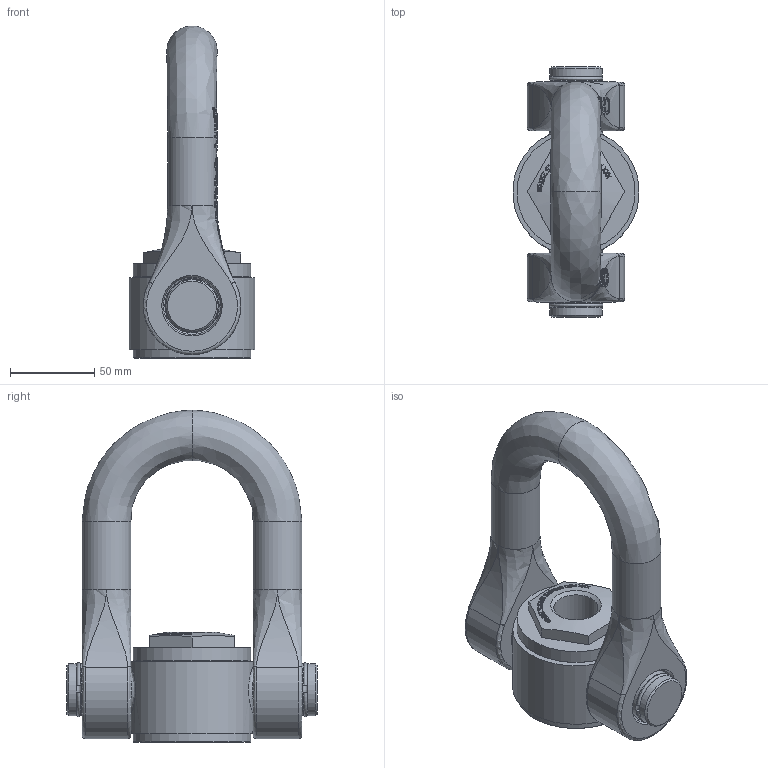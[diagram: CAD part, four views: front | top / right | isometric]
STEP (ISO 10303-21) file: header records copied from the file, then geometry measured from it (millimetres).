
FILE_DESCRIPTION(/* description */ (''),/* implementation_level */ '2;1');
FILE_NAME(/* name */ 'W:\CODIPRO\DOCUMENTS\Plans A NE PAS DIFFUSER !!!\Inventor\Standard Inventor\Produit Fini Inventor\SS_FE_DSS\Fichiers 3D\SS FE DSS M30.stp',/* time_stamp */ '2017-10-06T14:40:34+02:00',/* author */ ('rklenes'),/* organization */ (''),/* preprocessor_version */ 'ST-DEVELOPER v16.5',/* originating_system */ 'Autodesk Inventor 2017',/* authorisation */ '');
FILE_SCHEMA (('AUTOMOTIVE_DESIGN { 1 0 10303 214 3 1 1 }'));
Length unit declared in the file: millimetre
Products named in the file (6): SS FE DSS M30; DSM_N3; DSM_N3X51; DSE_M45A; FE_DSA_M30; DIN 7993 - A 30
Assembly tree (6 placements, depth 2):
  SS FE DSS M30
    DSM_N3
    DSM_N3X51
    DSE_M45A
    FE_DSA_M30
    DIN 7993 - A 30  x2
Bounding box: 74.72 x 148.5 x 197 mm (x, y, z)
Volume: 600611.7 mm3; surface area: 119758.4 mm2
Topology: 6 solids, 6 shells, 876 faces, 2427 edges, 1613 vertices
Faces by surface type: plane 373, bspline 366, cylinder 68, sphere 29, cone 23, torus 17
Full cylindrical faces by diameter (mm): 26.211 x1, 29 x2, 31 x4, 32.25 x2, 45 x3, 45.2 x1, 50.7 x2, 51 x3, 70 x2
Entity records: 35302 total; most frequent: CARTESIAN_POINT 14918, ORIENTED_EDGE 4728, DIRECTION 3299, EDGE_CURVE 2364, VERTEX_POINT 1603, AXIS2_PLACEMENT_3D 1245, EDGE_LOOP 985, FACE_OUTER_BOUND 873
